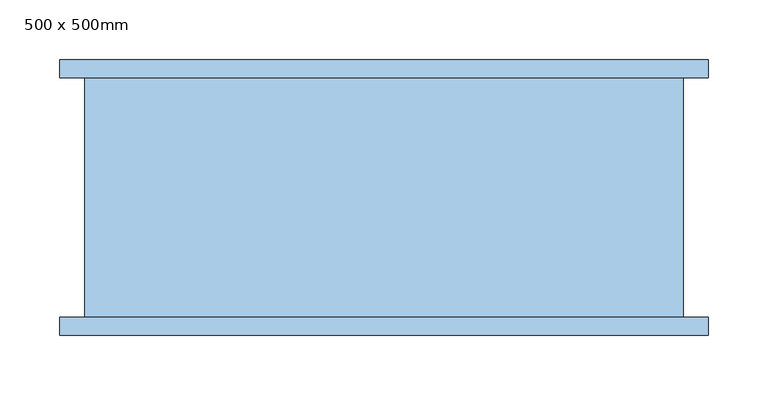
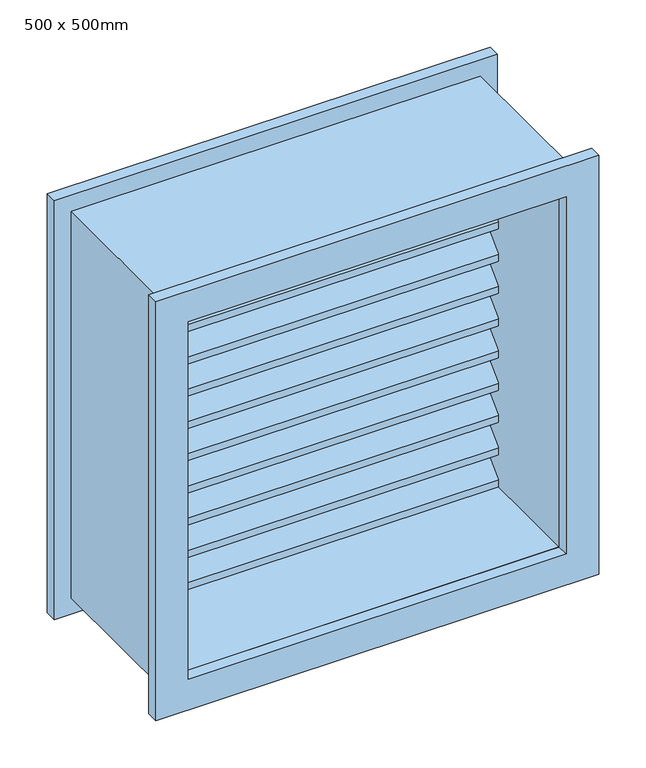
"""IFC4 building model written with IfcOpenShell, lengths in millimetres: window geometry, 百叶风口 3 - 带贴面 : 500 x 500mm."""

from ifc_helpers import new_model, si_unit, frame, origin, place, context, project, spatial, polyline, outline, extrude, source, transform, mapped, element, save


def window_500_x_500mm_c674ac40(model_context):
    return source(origin(), model_context, "Body", "SweptSolid", [
        extrude(outline(polyline([(64.0789755, 1380.9512806), (100.0, 1345.0302561), (100.0, 1336.05), (64.0789755, 1371.9710245), (28.157951, 1336.05), (28.157951, 1345.0302561), (64.0789755, 1380.9512806)])), frame((-230.95, 0.0, 0.0), z_axis=(1.0, 0.0, 0.0), x_axis=(0.0, 1.0, 0.0)), (0.0, 0.0, 1.0), 461.9),
        extrude(outline(polyline([(64.0789755, 1339.2512806), (100.0, 1303.3302561), (100.0, 1294.35), (64.0789755, 1330.2710245), (28.157951, 1294.35), (28.157951, 1303.3302561), (64.0789755, 1339.2512806)])), frame((-230.95, 0.0, 0.0), z_axis=(1.0, 0.0, 0.0), x_axis=(0.0, 1.0, 0.0)), (0.0, 0.0, 1.0), 461.9),
        extrude(outline(polyline([(64.0789755, 1297.5512806), (100.0, 1261.6302561), (100.0, 1252.65), (64.0789755, 1288.5710245), (28.157951, 1252.65), (28.157951, 1261.6302561), (64.0789755, 1297.5512806)])), frame((-230.95, 0.0, 0.0), z_axis=(1.0, 0.0, 0.0), x_axis=(0.0, 1.0, 0.0)), (0.0, 0.0, 1.0), 461.9),
        extrude(outline(polyline([(64.0789755, 1255.8512806), (100.0, 1219.9302561), (100.0, 1210.95), (64.0789755, 1246.8710245), (28.157951, 1210.95), (28.157951, 1219.9302561), (64.0789755, 1255.8512806)])), frame((-230.95, 0.0, 0.0), z_axis=(1.0, 0.0, 0.0), x_axis=(0.0, 1.0, 0.0)), (0.0, 0.0, 1.0), 461.9),
        extrude(outline(polyline([(64.0789755, 1214.1512806), (100.0, 1178.2302561), (100.0, 1169.25), (64.0789755, 1205.1710245), (28.157951, 1169.25), (28.157951, 1178.2302561), (64.0789755, 1214.1512806)])), frame((-230.95, 0.0, 0.0), z_axis=(1.0, 0.0, 0.0), x_axis=(0.0, 1.0, 0.0)), (0.0, 0.0, 1.0), 461.9),
        extrude(outline(polyline([(64.0789755, 1172.4512806), (100.0, 1136.5302561), (100.0, 1127.55), (64.0789755, 1163.4710245), (28.157951, 1127.55), (28.157951, 1136.5302561), (64.0789755, 1172.4512806)])), frame((-230.95, 0.0, 0.0), z_axis=(1.0, 0.0, 0.0), x_axis=(0.0, 1.0, 0.0)), (0.0, 0.0, 1.0), 461.9),
        extrude(outline(polyline([(64.0789755, 1130.7512806), (100.0, 1094.8302561), (100.0, 1085.85), (64.0789755, 1121.7710245), (28.157951, 1085.85), (28.157951, 1094.8302561), (64.0789755, 1130.7512806)])), frame((-230.95, 0.0, 0.0), z_axis=(1.0, 0.0, 0.0), x_axis=(0.0, 1.0, 0.0)), (0.0, 0.0, 1.0), 461.9),
        extrude(outline(polyline([(64.0789755, 1089.0512806), (100.0, 1053.1302561), (100.0, 1044.15), (64.0789755, 1080.0710245), (28.157951, 1044.15), (28.157951, 1053.1302561), (64.0789755, 1089.0512806)])), frame((-230.95, 0.0, 0.0), z_axis=(1.0, 0.0, 0.0), x_axis=(0.0, 1.0, 0.0)), (0.0, 0.0, 1.0), 461.9),
        extrude(outline(polyline([(64.0789755, 1047.3512806), (100.0, 1011.4302561), (100.0, 1002.45), (64.0789755, 1038.3710245), (28.157951, 1002.45), (28.157951, 1011.4302561), (64.0789755, 1047.3512806)])), frame((-230.95, 0.0, 0.0), z_axis=(1.0, 0.0, 0.0), x_axis=(0.0, 1.0, 0.0)), (0.0, 0.0, 1.0), 461.9),
        extrude(outline(polyline([(64.0789755, 1005.6512806), (100.0, 969.7302561), (100.0, 960.75), (64.0789755, 996.6710245), (28.157951, 960.75), (28.157951, 969.7302561), (64.0789755, 1005.6512806)])), frame((-230.95, 0.0, 0.0), z_axis=(1.0, 0.0, 0.0), x_axis=(0.0, 1.0, 0.0)), (0.0, 0.0, 1.0), 461.9),
        extrude(outline(polyline([(64.0789755, 963.9512806), (100.0, 928.0302561), (100.0, 919.05), (64.0789755, 954.9710245), (28.157951, 919.05), (28.157951, 928.0302561), (64.0789755, 963.9512806)])), frame((-230.95, 0.0, 0.0), z_axis=(1.0, 0.0, 0.0), x_axis=(0.0, 1.0, 0.0)), (0.0, 0.0, 1.0), 461.9),
        extrude(outline(polyline([(1400.0, 250.0), (1400.0, -250.0), (900.0, -250.0), (900.0, 250.0), (1400.0, 250.0)]), holes=[polyline([(1380.95, 230.95), (919.05, 230.95), (919.05, -230.95), (1380.95, -230.95), (1380.95, 230.95)])]), frame((0.0, -100.0, 0.0), z_axis=(0.0, 1.0, 0.0), x_axis=(0.0, 0.0, 1.0)), (0.0, 0.0, 1.0), 200.0),
        extrude(outline(polyline([(1420.95, -270.95), (879.05, -270.95), (879.05, 270.95), (1420.95, 270.95), (1420.95, -270.95)]), holes=[polyline([(1380.95, -230.95), (1380.95, 230.95), (919.05, 230.95), (919.05, -230.95), (1380.95, -230.95)])]), frame((0.0, 100.0, 0.0), z_axis=(0.0, 1.0, 0.0), x_axis=(0.0, 0.0, 1.0)), (0.0, 0.0, 1.0), 15.0),
        extrude(outline(polyline([(1420.95, 270.95), (1420.95, -270.95), (879.05, -270.95), (879.05, 270.95), (1420.95, 270.95)]), holes=[polyline([(1380.95, 230.95), (919.05, 230.95), (919.05, -230.95), (1380.95, -230.95), (1380.95, 230.95)])]), frame((0.0, -115.0, 0.0), z_axis=(0.0, 1.0, 0.0), x_axis=(0.0, 0.0, 1.0)), (0.0, 0.0, 1.0), 15.0),
    ])


if __name__ == "__main__":
    model = new_model("IFC4")
    model_context = context("Model", 3, world=origin())
    ifc_project = project(units=[si_unit("LENGTHUNIT", "METRE", prefix="MILLI")], contexts=[model_context])
    site = spatial("IfcSite", under=ifc_project)
    building = spatial("IfcBuilding", under=site)
    placement = place(None, origin())
    window_500_x_500mm_shape = window_500_x_500mm_c674ac40(model_context)
    element("IfcWindow", 1, ObjectType="百叶风口 3 - 带贴面 : 500 x 500mm", at=placement, inside=building, context=model_context, shape_type="MappedRepresentation", body=[
        mapped(window_500_x_500mm_shape, transform((0.0, 0.0, 0.0), x_axis=(1.0, 0.0, 0.0), y_axis=(0.0, 1.0, 0.0), z_axis=(0.0, 0.0, 1.0))),
    ])
    save(model, "model.ifc")
